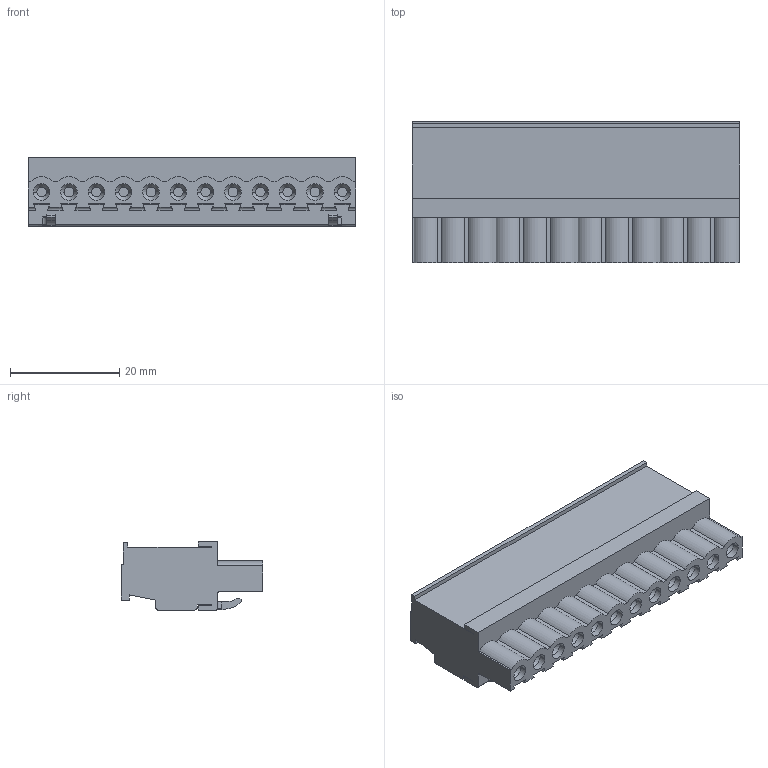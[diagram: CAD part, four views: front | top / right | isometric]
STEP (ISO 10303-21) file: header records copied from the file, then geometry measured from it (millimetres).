
FILE_DESCRIPTION (( 'STEP AP214' ), '1' );
FILE_NAME ('120-D-121-12.STEP', '2007-09-20T03:54:21', ( ' ' ), ( '' ), 'SwSTEP 2.0', 'SolidWorks 2007', '' );
FILE_SCHEMA (( 'AUTOMOTIVE_DESIGN' ));
Length unit declared in the file: millimetre
Products named in the file (1): 120-D-121-12
Bounding box: 60 x 25.9 x 12.5 mm (x, y, z)
Volume: 12649 mm3; surface area: 7506.6 mm2
Topology: 1 solids, 1 shells, 568 faces, 1480 edges, 938 vertices
Faces by surface type: plane 360, cylinder 158, cone 48, torus 2
Entity records: 17243 total; most frequent: CARTESIAN_POINT 3089, ORIENTED_EDGE 2960, DIRECTION 2956, EDGE_CURVE 1480, VECTOR 1082, LINE 1082, VERTEX_POINT 938, AXIS2_PLACEMENT_3D 937
